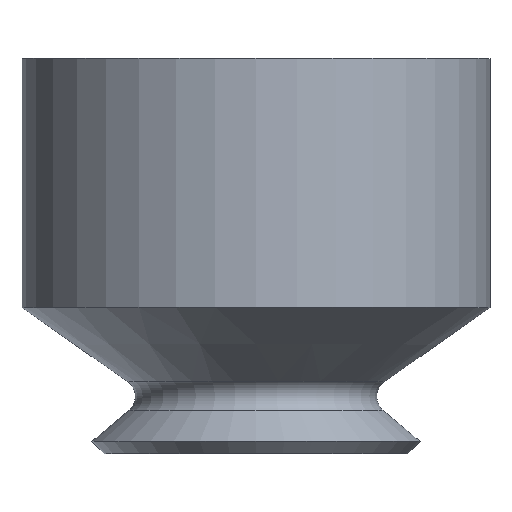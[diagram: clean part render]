
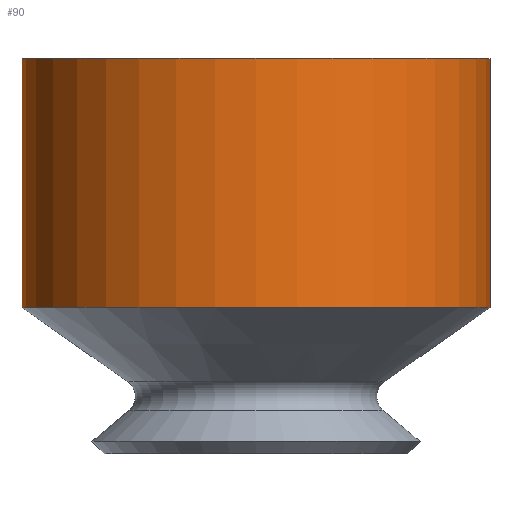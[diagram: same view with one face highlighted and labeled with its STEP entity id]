
A CAD part, top view. The second image highlights one B-rep face of the part: STEP entity #90.
In plain terms, the highlighted cylindrical face has radius 3.85 mm (diameter 7.7 mm), a full revolution.
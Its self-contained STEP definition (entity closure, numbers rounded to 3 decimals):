
#90=ADVANCED_FACE('',(#139,#140),#141,.T.);
#139=FACE_OUTER_BOUND('',#227,.T.);
#140=FACE_OUTER_BOUND('',#228,.T.);
#141=CYLINDRICAL_SURFACE('',#229,3.85);
#227=EDGE_LOOP('',(#308));
#228=EDGE_LOOP('',(#309));
#229=AXIS2_PLACEMENT_3D('',#310,#311,#312);
#308=ORIENTED_EDGE('',*,*,#329,.T.);
#309=ORIENTED_EDGE('',*,*,#340,.F.);
#310=CARTESIAN_POINT('',(0.0,0.0,0.0));
#311=DIRECTION('',(0.0,-1.0,0.));
#312=DIRECTION('',(0.0,0.,-1.0));
#329=EDGE_CURVE('',#353,#353,#354,.T.);
#340=EDGE_CURVE('',#375,#375,#376,.T.);
#353=VERTEX_POINT('',#389);
#354=CIRCLE('',#390,3.85);
#375=VERTEX_POINT('',#411);
#376=CIRCLE('',#412,3.85);
#389=CARTESIAN_POINT('',(3.85,12.658,0.));
#390=AXIS2_PLACEMENT_3D('',#431,#432,#433);
#411=CARTESIAN_POINT('',(3.85,8.558,0.));
#412=AXIS2_PLACEMENT_3D('',#464,#465,#466);
#431=CARTESIAN_POINT('',(0.0,12.658,0.));
#432=DIRECTION('',(0.0,-1.0,0.));
#433=DIRECTION('',(0.0,0.,-1.0));
#464=CARTESIAN_POINT('',(0.0,8.558,0.));
#465=DIRECTION('',(0.0,-1.0,0.));
#466=DIRECTION('',(0.0,0.,-1.0));
